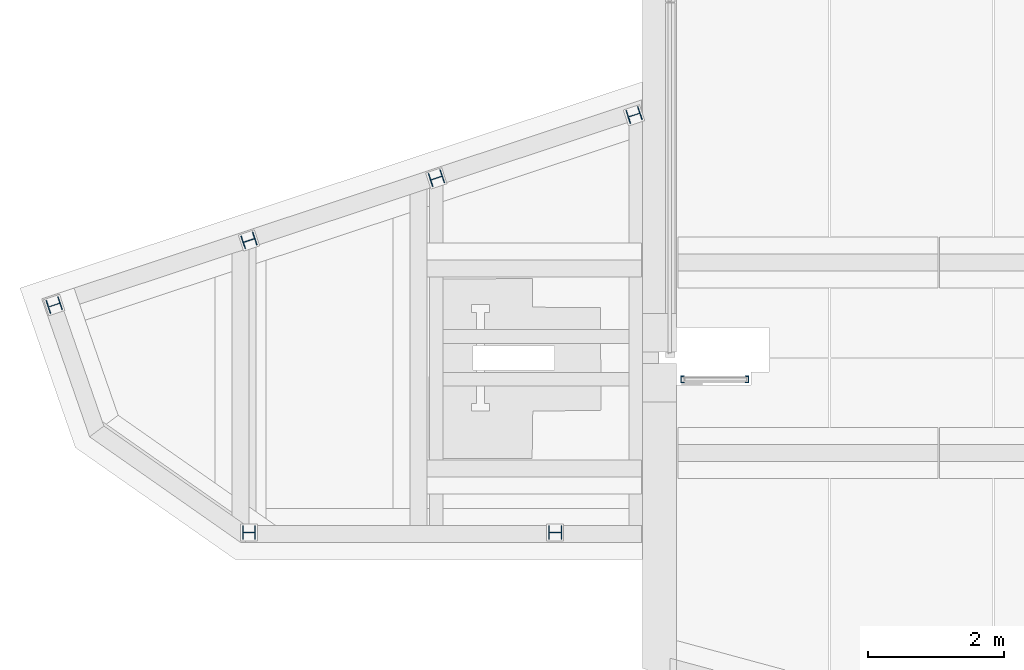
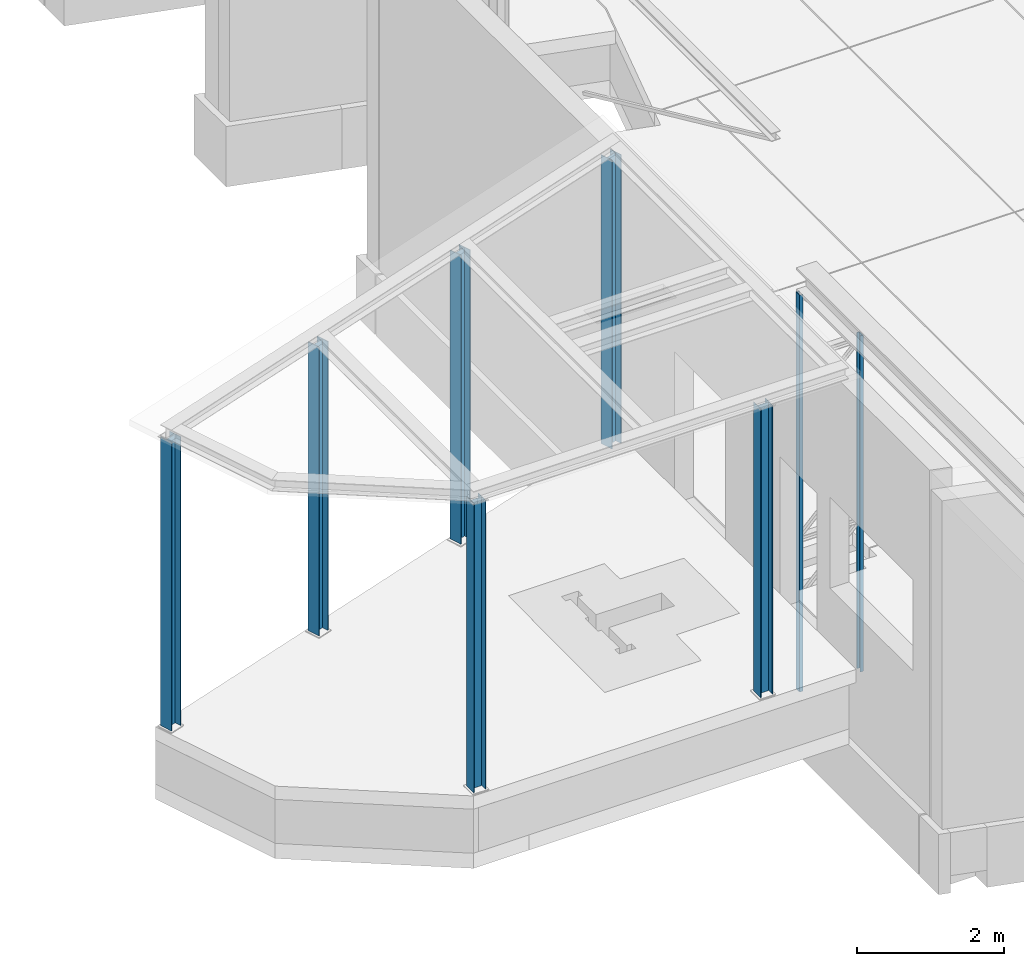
# One storey, part 19 of 59: 8 columns.
"""IFC2X3 building model written with IfcOpenShell, lengths in metres."""

import ifcopenshell
import ifcopenshell.guid

model = None  # the IFC model being written
_history = None  # IfcOwnerHistory: only IFC2X3 demands one
_inside = {}  # id of a spatial element -> (the spatial element, [elements in it])
_under = {}  # id of a project, library or spatial element -> (it, [spatial elements below it])
_declared = {}  # id of a project -> (the project, [libraries it declares])
_typed = {}  # id of a type object -> (the type object, [elements of that type])
_made_of = {}  # id of a material, layer set ... -> (it, [elements and type objects made of it])


def new_model(schema):
    """Start an empty IFC model of exactly this schema.

    Asked for "IFC4X3", IfcOpenShell would pick the latest addendum, in which some entities
    have other attributes; the version numbers below select the first issue.
    IFC2X3 requires an IfcOwnerHistory on every rooted entity: one is made here for all.
    """
    global model, _history
    if schema == "IFC4X3":
        model = ifcopenshell.file(schema_version=(4, 3, 0, 0))
    else:
        model = ifcopenshell.file(schema=schema)
    _inside.clear()
    _under.clear()
    _declared.clear()
    _typed.clear()
    _made_of.clear()
    _history = None
    if model.schema == "IFC2X3":
        org = make("IfcOrganization", Name="unknown")
        user = make(
            "IfcPersonAndOrganization",
            ThePerson=make("IfcPerson", FamilyName="unknown"),
            TheOrganization=org,
        )
        app = make(
            "IfcApplication",
            ApplicationDeveloper=org,
            Version="unknown",
            ApplicationFullName="unknown",
            ApplicationIdentifier="unknown",
        )
        _history = make(
            "IfcOwnerHistory",
            OwningUser=user,
            OwningApplication=app,
            ChangeAction="ADDED",
            CreationDate=0,
        )
    return model


def make(cls, **values):
    """One entity of the class cls with the attributes given. An attribute that is None is left unset."""
    return model.create_entity(
        cls, **{name: value for name, value in values.items() if value is not None}
    )


def entity(cls, *values):
    """Any entity or typed value of the class cls, its attributes in the order of the schema. None: left unset."""
    e = model.create_entity(cls)
    for i, value in enumerate(values):
        if value is not None:
            e[i] = value
    return e


def rooted(cls, **values):
    """An entity with a GlobalId (a new one), such as an element, a storey or a relation."""
    return make(cls, GlobalId=ifcopenshell.guid.new(), OwnerHistory=_history, **values)


def si_unit(unit_type, name, prefix=None):
    """IfcSIUnit, for example si_unit("LENGTHUNIT", "METRE", prefix="MILLI")."""
    return make("IfcSIUnit", UnitType=unit_type, Prefix=prefix, Name=name)


def converted_unit(unit_type, name, factor, base, dimensions=None, offset=None):
    """IfcConversionBasedUnit, such as the inch: factor (a typed value) times the base unit."""
    return make(
        "IfcConversionBasedUnit"
        if offset is None
        else "IfcConversionBasedUnitWithOffset",
        ConversionOffset=offset,
        Dimensions=None
        if dimensions is None
        else entity("IfcDimensionalExponents", *dimensions),
        UnitType=unit_type,
        Name=name,
        ConversionFactor=make(
            "IfcMeasureWithUnit", ValueComponent=factor, UnitComponent=base
        ),
    )


def derived_unit(unit_type, elements):
    """IfcDerivedUnit: a product of units, each with its exponent."""
    return make(
        "IfcDerivedUnit",
        Elements=[
            make("IfcDerivedUnitElement", Unit=unit, Exponent=power)
            for unit, power in elements
        ],
        UnitType=unit_type,
    )


def assignment(units):
    """IfcUnitAssignment: the units of a project."""
    return None if units is None else make("IfcUnitAssignment", Units=units)


def point(xyz):
    """IfcCartesianPoint."""
    return None if xyz is None else make("IfcCartesianPoint", Coordinates=xyz)


def direction(xyz):
    """IfcDirection."""
    return None if xyz is None else make("IfcDirection", DirectionRatios=xyz)


def frame(location, z_axis=None, x_axis=None):
    """IfcAxis2Placement3D, a coordinate frame: its origin and axes. An axis left out is left unset."""
    return make(
        "IfcAxis2Placement3D",
        Location=point(location),
        Axis=direction(z_axis),
        RefDirection=direction(x_axis),
    )


def origin():
    """The frame at (0, 0, 0) with its axes left unset."""
    return frame((0.0, 0.0, 0.0))


def origin_with_axes():
    """The frame at (0, 0, 0) with the z axis (0, 0, 1) and the x axis (1, 0, 0) written out."""
    return frame((0.0, 0.0, 0.0), z_axis=(0.0, 0.0, 1.0), x_axis=(1.0, 0.0, 0.0))


def place(relative_to, where):
    """IfcLocalPlacement: puts the frame where relative to a parent placement (None: the world)."""
    return make(
        "IfcLocalPlacement", PlacementRelTo=relative_to, RelativePlacement=where
    )


def context(
    kind, dimensions, precision=None, world=None, true_north=None, identifier=None
):
    """IfcGeometricRepresentationContext, for example the 3D "Model" context."""
    return make(
        "IfcGeometricRepresentationContext",
        ContextIdentifier=identifier,
        ContextType=kind,
        CoordinateSpaceDimension=dimensions,
        Precision=precision,
        WorldCoordinateSystem=world,
        TrueNorth=true_north,
    )


def subcontext(parent, identifier, kind, view, scale=None):
    """IfcGeometricRepresentationSubContext, for example "Body" below "Model"."""
    return make(
        "IfcGeometricRepresentationSubContext",
        ContextIdentifier=identifier,
        ContextType=kind,
        ParentContext=parent,
        TargetScale=scale,
        TargetView=view,
    )


def project(units=None, contexts=None):
    """IfcProject with its units and contexts."""
    return rooted(
        "IfcProject",
        Name="project",
        RepresentationContexts=contexts,
        UnitsInContext=assignment(units),
    )


def spatial(cls, under=None, at=None, **own):
    """A site, building, storey or space (cls), placed at a placement, below another one or the project."""
    s = rooted(cls, ObjectPlacement=at, **own)
    if under is not None:
        _under.setdefault(under.id(), (under, []))[1].append(s)
    return s


def polyline(points):
    """IfcPolyline through the points."""
    return make("IfcPolyline", Points=[point(p) for p in points])


def outline(outer, holes=None, kind="AREA"):
    """IfcArbitraryClosedProfileDef: a profile drawn as a closed curve; with holes, ...WithVoids."""
    if holes is None:
        return make("IfcArbitraryClosedProfileDef", ProfileType=kind, OuterCurve=outer)
    return make(
        "IfcArbitraryProfileDefWithVoids",
        ProfileType=kind,
        OuterCurve=outer,
        InnerCurves=holes,
    )


def extrude(swept, where, along, depth):
    """IfcExtrudedAreaSolid: the profile swept, set in the frame where, extruded along a direction by depth."""
    return make(
        "IfcExtrudedAreaSolid",
        SweptArea=swept,
        Position=where,
        ExtrudedDirection=direction(along),
        Depth=depth,
    )


def shape(context_of_items, identifier, shape_type, items):
    """IfcShapeRepresentation: the items that make up one representation, for example the "Body"."""
    return make(
        "IfcShapeRepresentation",
        ContextOfItems=context_of_items,
        RepresentationIdentifier=identifier,
        RepresentationType=shape_type,
        Items=items,
    )


def material(Name=None, Category=None):
    """IfcMaterial."""
    return make("IfcMaterial", Name=Name, Category=Category)


def made_of(thing, what):
    """Note that an element or type object is made of a material, layer set ...; save() writes the relation."""
    if what is not None:
        _made_of.setdefault(what.id(), (what, []))[1].append(thing)
    return thing


def element(
    cls,
    number,
    at=None,
    inside=None,
    cuts=None,
    type_object=None,
    material=None,
    context=None,
    identifier="Body",
    shape_type=None,
    held_by="IfcProductDefinitionShape",
    body=None,
    shapes=None,
    **own,
):
    """One element of the class cls, such as IfcWall. Its Tag is "e" and its number.

    at: its placement. inside: the storey or other place that contains it. cuts: it is an
    opening in that element (IfcRelVoidsElement). A single representation is given by context,
    identifier, shape_type and body (its items); several are given by shapes. held_by: the class
    of the entity that holds the representations. save() writes the other relations.
    """
    e = rooted(cls, Tag="e%d" % number, ObjectPlacement=at, **own)
    if body is not None:
        shapes = [shape(context, identifier, shape_type, body)]
    if shapes is not None:
        e.Representation = make(held_by, Representations=shapes)
    if inside is not None:
        _inside.setdefault(inside.id(), (inside, []))[1].append(e)
    if cuts is not None:
        rooted(
            "IfcRelVoidsElement", RelatingBuildingElement=cuts, RelatedOpeningElement=e
        )
    if type_object is not None:
        _typed.setdefault(type_object.id(), (type_object, []))[1].append(e)
    return made_of(e, material)


def aggregate(whole, parts):
    """IfcRelAggregates: a whole, such as a stair, and the parts it consists of."""
    return rooted("IfcRelAggregates", RelatingObject=whole, RelatedObjects=parts)


def save(model, path):
    """Write the relations noted so far, then the file.

    IfcRelAggregates (storeys below a building ...), IfcRelContainedInSpatialStructure (elements
    in a storey), IfcRelDefinesByType, IfcRelAssociatesMaterial and IfcRelDeclares: one each for
    every whole, place, type object, material and project.
    """
    for whole, parts in _under.values():
        aggregate(whole, parts)
    for where, things in _inside.values():
        rooted(
            "IfcRelContainedInSpatialStructure",
            RelatedElements=things,
            RelatingStructure=where,
        )
    for kind, things in _typed.values():
        rooted("IfcRelDefinesByType", RelatedObjects=things, RelatingType=kind)
    for what, things in _made_of.values():
        rooted("IfcRelAssociatesMaterial", RelatedObjects=things, RelatingMaterial=what)
    for by, libraries in _declared.values():
        rooted("IfcRelDeclares", RelatingContext=by, RelatedDefinitions=libraries)
    model.write(path)


model = new_model("IFC2X3")

# Units and contexts
model_context = context("Model", 3, precision=1e-05, world=origin())
body_context = subcontext(model_context, "Body", "Model", "MODEL_VIEW")
ifc_project = project(units=[si_unit("LENGTHUNIT", "METRE"), si_unit("AREAUNIT", "SQUARE_METRE"), si_unit("VOLUMEUNIT", "CUBIC_METRE"), si_unit("MASSUNIT", "GRAM", prefix="KILO"), converted_unit("PLANEANGLEUNIT", "DEGREE", entity("IfcPlaneAngleMeasure", 0.0174532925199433), si_unit("PLANEANGLEUNIT", "RADIAN"), dimensions=[0, 0, 0, 0, 0, 0, 0]), derived_unit("THERMALTRANSMITTANCEUNIT", [(si_unit("POWERUNIT", "WATT"), 1), (si_unit("THERMODYNAMICTEMPERATUREUNIT", "KELVIN"), -1), (si_unit("LENGTHUNIT", "METRE"), -2)]), derived_unit("VOLUMETRICFLOWRATEUNIT", [(si_unit("LENGTHUNIT", "METRE"), 3), (converted_unit("TIMEUNIT", "hour", entity("IfcTimeMeasure", 3600.0), si_unit("TIMEUNIT", "SECOND"), dimensions=[0, 0, 1, 0, 0, 0, 0]), -1), (si_unit("LENGTHUNIT", "METRE"), -1)])], contexts=[model_context])

# Site, building, storey
site_placement = place(None, origin())
site = spatial("IfcSite", under=ifc_project, at=site_placement, Name="TWP_Speiseverteilzentrum SBW VZ II", CompositionType="ELEMENT")
building_placement = place(site_placement, origin())
building = spatial("IfcBuilding", under=site, at=building_placement, Name="Speiseverteilzentrum SBW VZ II", CompositionType="ELEMENT")
storey_placement = place(building_placement, frame((0.0, 0.0, 1.7307)))
storey = spatial("IfcBuildingStorey", under=building, at=storey_placement, Name="EG_Produktion_FFB", CompositionType="ELEMENT", Elevation=1.7307)

# Columns
ifc_material_1 = material(Name="S235")
column_1_placement = place(storey_placement, frame((3.36070517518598, 28.1349999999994, 0.015)))
element("IfcColumn", 1, at=column_1_placement, inside=storey, material=ifc_material_1, Name="Rahmenstiel", context=body_context, shape_type="SweptSolid", body=[
    extrude(outline(polyline([(0.189999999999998, 0.0), (0.189999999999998, 0.200000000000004), (0.179999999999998, 0.2), (0.18, 0.10325), (0.01, 0.103250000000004), (0.01, 0.200000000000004), (0.0, 0.2), (0.0, 0.0), (0.00999999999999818, 0.0), (0.01, 0.0967500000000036), (0.18, 0.09675), (0.18, 0.0), (0.189999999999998, 0.0)])), origin_with_axes(), (0.0, 0.0, 1.0), 4.7888),
])
ifc_material_2 = material(Name="S235")
column_2_placement = place(storey_placement, frame((7.86070517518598, 28.1349999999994, 0.015)))
element("IfcColumn", 2, at=column_2_placement, inside=storey, material=ifc_material_2, Name="Rahmenstiel", context=body_context, shape_type="SweptSolid", body=[
    extrude(outline(polyline([(0.190000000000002, 0.0), (0.190000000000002, 0.200000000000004), (0.18, 0.2), (0.180000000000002, 0.10325), (0.0100000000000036, 0.103250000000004), (0.0100000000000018, 0.200000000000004), (0.0, 0.2), (0.0, 0.0), (0.0100000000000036, 0.0), (0.0100000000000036, 0.0967500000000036), (0.180000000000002, 0.09675), (0.180000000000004, 0.0), (0.190000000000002, 0.0)])), origin_with_axes(), (0.0, 0.0, 1.0), 4.7888),
])
ifc_material_3 = material(Name="S235")
column_3_placement = place(storey_placement, frame((6.08875615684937, 33.3179587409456, 0.015)))
element("IfcColumn", 3, at=column_3_placement, inside=storey, material=ifc_material_3, Name="Rahmenstiel", context=body_context, shape_type="SweptSolid", body=[
    extrude(outline(polyline([(0.243289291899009, 0.0597971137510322), (0.180344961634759, 0.249633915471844), (0.170853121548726, 0.24648669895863), (0.201302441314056, 0.154653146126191), (0.0399411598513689, 0.101150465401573), (0.00949184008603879, 0.192984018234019), (0.0, 0.189836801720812), (0.0629443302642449, 0.0), (0.0724361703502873, 0.00314721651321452), (0.0419868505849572, 0.0949807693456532), (0.203348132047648, 0.148483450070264), (0.233797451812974, 0.0566498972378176), (0.243289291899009, 0.0597971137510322)])), origin_with_axes(), (0.0, 0.0, 1.0), 4.7888),
])
ifc_material_4 = material(Name="S235")
column_4_placement = place(storey_placement, frame((3.33406052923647, 32.4011582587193, 0.015)))
element("IfcColumn", 4, at=column_4_placement, inside=storey, material=ifc_material_4, Name="Rahmenstiel", context=body_context, shape_type="SweptSolid", body=[
    extrude(outline(polyline([(0.243289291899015, 0.0597971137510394), (0.18034496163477, 0.249633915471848), (0.170853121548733, 0.246486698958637), (0.201302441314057, 0.154653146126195), (0.0399411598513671, 0.101150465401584), (0.00949184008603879, 0.192984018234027), (0.0, 0.189836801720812), (0.0629443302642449, 0.0), (0.0724361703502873, 0.00314721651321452), (0.0419868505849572, 0.0949807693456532), (0.203348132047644, 0.148483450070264), (0.233797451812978, 0.0566498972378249), (0.243289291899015, 0.0597971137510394)])), origin_with_axes(), (0.0, 0.0, 1.0), 4.7888),
])
ifc_material_5 = material(Name="S235")
column_5_placement = place(storey_placement, frame((0.47181928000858, 31.4521227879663, 0.015)))
element("IfcColumn", 5, at=column_5_placement, inside=storey, material=ifc_material_5, Name="Rahmenstiel", context=body_context, shape_type="SweptSolid", body=[
    extrude(outline(polyline([(0.243289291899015, 0.0597971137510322), (0.180344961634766, 0.249633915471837), (0.170853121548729, 0.246486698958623), (0.201302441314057, 0.154653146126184), (0.0399411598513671, 0.101150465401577), (0.00949184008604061, 0.192984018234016), (0.0, 0.189836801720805), (0.0629443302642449, 0.0), (0.0724361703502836, 0.00314721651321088), (0.0419868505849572, 0.094980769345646), (0.203348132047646, 0.148483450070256), (0.233797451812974, 0.0566498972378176), (0.243289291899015, 0.0597971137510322)])), origin_with_axes(), (0.0, 0.0, 1.0), 4.7888),
])
ifc_material_6 = material(Name="S235")
column_6_placement = place(storey_placement, frame((8.99342914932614, 34.2445429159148, 0.015)))
element("IfcColumn", 6, at=column_6_placement, inside=storey, material=ifc_material_6, Name="Rahmenstiel", context=body_context, shape_type="SweptSolid", body=[
    extrude(outline(polyline([(0.243289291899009, 0.0597971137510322), (0.180344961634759, 0.249633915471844), (0.170853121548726, 0.24648669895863), (0.201302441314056, 0.154653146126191), (0.0399411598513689, 0.101150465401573), (0.00949184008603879, 0.192984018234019), (0.0, 0.189836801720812), (0.0629443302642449, 0.0), (0.0724361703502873, 0.00314721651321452), (0.0419868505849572, 0.0949807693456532), (0.203348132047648, 0.148483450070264), (0.233797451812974, 0.0566498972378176), (0.243289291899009, 0.0597971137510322)])), origin_with_axes(), (0.0, 0.0, 1.0), 4.7888),
])
ifc_material_7 = material(Name="S235")
column_7_placement = place(storey_placement, frame((9.80000000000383, 30.4350010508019, -1.965)))
element("IfcColumn", 7, at=column_7_placement, inside=storey, material=ifc_material_7, Name="Fachwerkstütze", context=body_context, shape_type="SweptSolid", body=[
    extrude(outline(polyline([(0.0, 0.0), (0.05, 0.0), (0.05, 0.0065), (0.006, 0.0100200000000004), (0.006, 0.0899799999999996), (0.05, 0.0935), (0.05, 0.1), (0.0, 0.1), (0.0, 0.0)])), origin_with_axes(), (0.0, 0.0, 1.0), 6.58),
])
ifc_material_8 = material(Name="S235")
column_8_placement = place(storey_placement, frame((10.7500000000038, 30.4350010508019, -1.965)))
element("IfcColumn", 8, at=column_8_placement, inside=storey, material=ifc_material_8, Name="Fachwerkstütze", context=body_context, shape_type="SweptSolid", body=[
    extrude(outline(polyline([(0.0, 0.0), (0.05, 0.0), (0.05, 0.1), (0.0, 0.1), (0.0, 0.0935), (0.044, 0.0899799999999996), (0.044, 0.0100200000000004), (0.0, 0.0065), (0.0, 0.0)])), origin_with_axes(), (0.0, 0.0, 1.0), 5.573),
])

save(model, "model.ifc")
